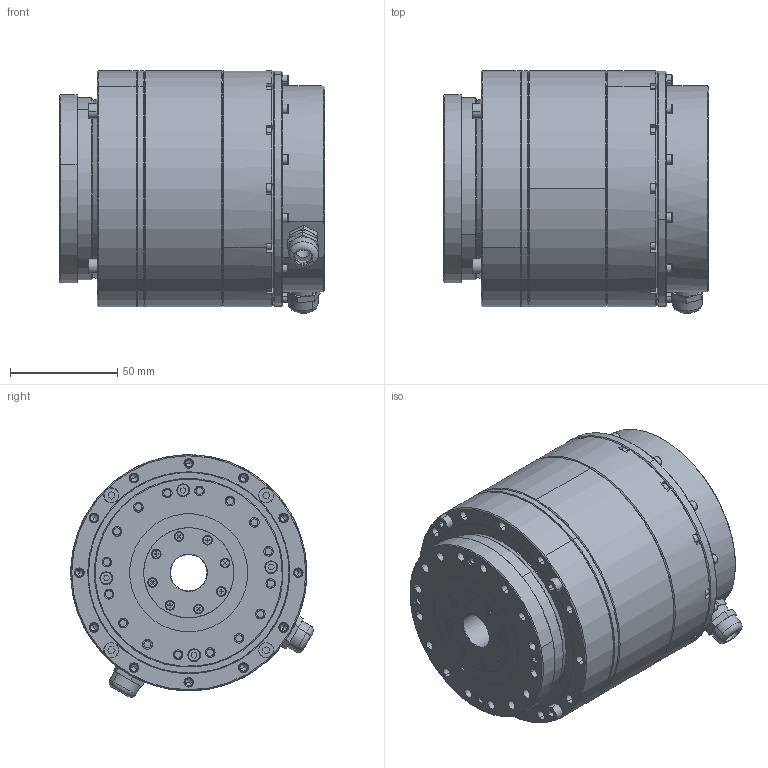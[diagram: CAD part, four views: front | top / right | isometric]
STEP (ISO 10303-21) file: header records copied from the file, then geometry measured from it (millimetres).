
FILE_DESCRIPTION (( 'STEP AP203' ), '1' );
FILE_NAME ('KAH-25CL3AS 軞蚾饜芞.STEP', '2021-04-07T08:27:25', ( '' ), ( '' ), 'SwSTEP 2.0', 'SolidWorks 2020', '' );
FILE_SCHEMA (( 'CONFIG_CONTROL_DESIGN' ));
Length unit declared in the file: millimetre
Products named in the file (1): KAH-25CL3AS 軞蚾饜芞
Bounding box: 123.5 x 113.01 x 113.01 mm (x, y, z)
Volume: 383402.2 mm3; surface area: 218517.8 mm2
Topology: 65 solids, 65 shells, 2390 faces, 5668 edges, 3467 vertices
Faces by surface type: cylinder 832, plane 754, cone 429, torus 221, sphere 112, bspline 42
Entity records: 73261 total; most frequent: CARTESIAN_POINT 16760, DIRECTION 12538, ORIENTED_EDGE 11112, EDGE_CURVE 5556, AXIS2_PLACEMENT_3D 5075, VERTEX_POINT 3467, EDGE_LOOP 2941, CIRCLE 2726
